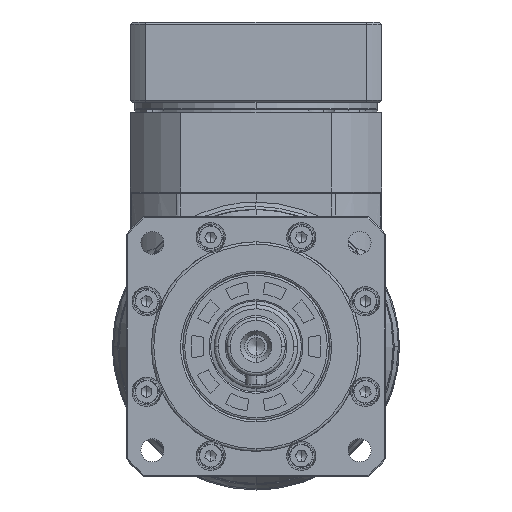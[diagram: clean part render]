
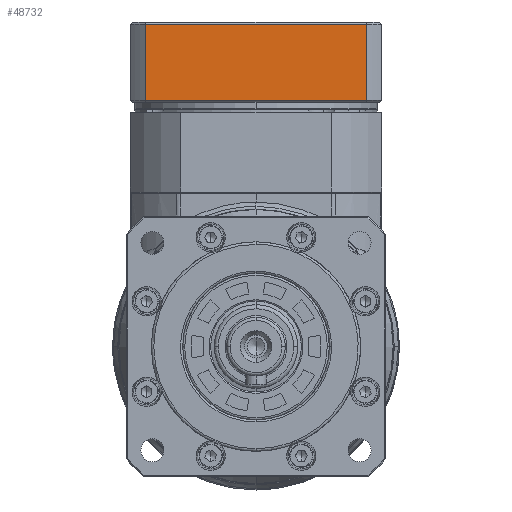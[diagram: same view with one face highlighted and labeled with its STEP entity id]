
A CAD part, left-side view. The second image highlights one B-rep face of the part: STEP entity #48732.
In plain terms, the highlighted planar face has unit normal (-1, 0, 0).
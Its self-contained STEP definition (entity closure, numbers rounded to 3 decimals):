
#1975 = VECTOR ( 'NONE', #59233, 1000. ) ;
#6736 = DIRECTION ( 'NONE',  ( -1., 0., 0. ) ) ;
#7094 = EDGE_LOOP ( 'NONE', ( #79408, #45890, #69924, #8143 ) ) ;
#7119 = LINE ( 'NONE', #7532, #20715 ) ;
#7532 = CARTESIAN_POINT ( 'NONE',  ( -66.465, -26.92, 129.831 ) ) ;
#8143 = ORIENTED_EDGE ( 'NONE', *, *, #51600, .T. ) ;
#9104 = FACE_OUTER_BOUND ( 'NONE', #7094, .T. ) ;
#13679 = CARTESIAN_POINT ( 'NONE',  ( -66.465, -0.462, 111.631 ) ) ;
#15808 = VERTEX_POINT ( 'NONE', #77829 ) ;
#20180 = CARTESIAN_POINT ( 'NONE',  ( -66.465, -0.462, 120.731 ) ) ;
#20715 = VECTOR ( 'NONE', #59014, 1000. ) ;
#24625 = EDGE_CURVE ( 'NONE', #33966, #15808, #60323, .T. ) ;
#28193 = DIRECTION ( 'NONE',  ( 0., 0., 1. ) ) ;
#28471 = EDGE_CURVE ( 'NONE', #15808, #73058, #77799, .T. ) ;
#29167 = CARTESIAN_POINT ( 'NONE',  ( -66.465, -26.92, 111.631 ) ) ;
#32527 = AXIS2_PLACEMENT_3D ( 'NONE', #53543, #6736, #28193 ) ;
#33966 = VERTEX_POINT ( 'NONE', #13679 ) ;
#44692 = VECTOR ( 'NONE', #78612, 1000. ) ;
#45260 = CARTESIAN_POINT ( 'NONE',  ( -66.465, -0.462, 129.831 ) ) ;
#45890 = ORIENTED_EDGE ( 'NONE', *, *, #28471, .T. ) ;
#45974 = LINE ( 'NONE', #20180, #1975 ) ;
#48732 = ADVANCED_FACE ( 'NONE', ( #9104 ), #63654, .T. ) ;
#51600 = EDGE_CURVE ( 'NONE', #64143, #33966, #45974, .T. ) ;
#53280 = CARTESIAN_POINT ( 'NONE',  ( -66.465, -53.377, 120.731 ) ) ;
#53543 = CARTESIAN_POINT ( 'NONE',  ( -66.465, -53.377, 111.631 ) ) ;
#59014 = DIRECTION ( 'NONE',  ( 0., 1., 0. ) ) ;
#59233 = DIRECTION ( 'NONE',  ( 0., 0., -1. ) ) ;
#60323 = LINE ( 'NONE', #29167, #62962 ) ;
#62962 = VECTOR ( 'NONE', #80240, 1000. ) ;
#63654 = PLANE ( 'NONE',  #32527 ) ;
#64143 = VERTEX_POINT ( 'NONE', #45260 ) ;
#69924 = ORIENTED_EDGE ( 'NONE', *, *, #78535, .T. ) ;
#73058 = VERTEX_POINT ( 'NONE', #75467 ) ;
#75467 = CARTESIAN_POINT ( 'NONE',  ( -66.465, -53.377, 129.831 ) ) ;
#77799 = LINE ( 'NONE', #53280, #44692 ) ;
#77829 = CARTESIAN_POINT ( 'NONE',  ( -66.465, -53.377, 111.631 ) ) ;
#78535 = EDGE_CURVE ( 'NONE', #73058, #64143, #7119, .T. ) ;
#78612 = DIRECTION ( 'NONE',  ( 0., 0., 1. ) ) ;
#79408 = ORIENTED_EDGE ( 'NONE', *, *, #24625, .T. ) ;
#80240 = DIRECTION ( 'NONE',  ( 0., -1., 0. ) ) ;
